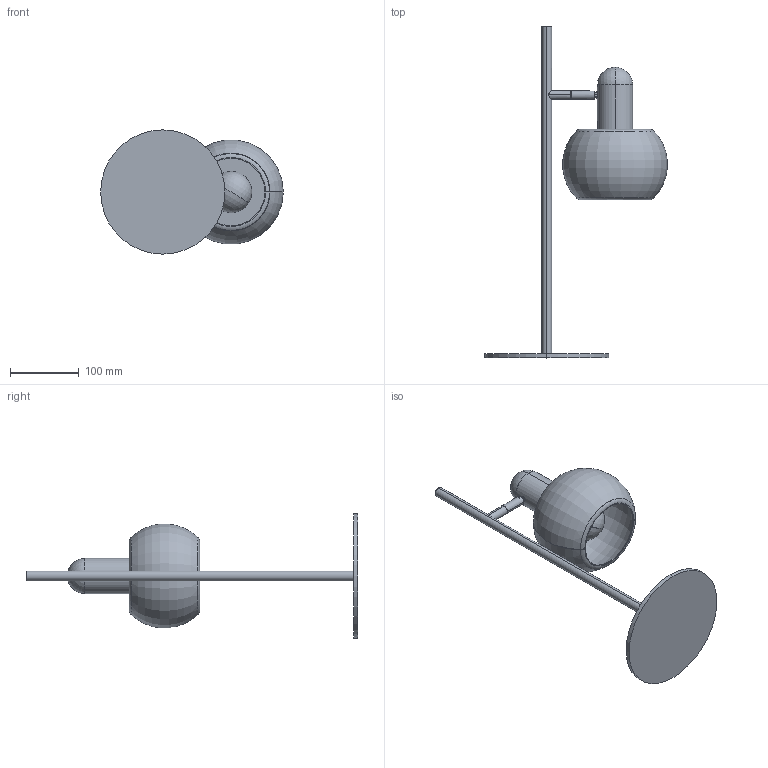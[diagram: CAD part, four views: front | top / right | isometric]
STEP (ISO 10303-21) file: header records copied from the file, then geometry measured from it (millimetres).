
FILE_DESCRIPTION (( 'STEP AP214' ), '1' );
FILE_NAME ('BF 20 table.STEP', '2020-09-03T08:20:20', ( '' ), ( '' ), 'SwSTEP 2.0', 'SolidWorks 2020', '' );
FILE_SCHEMA (( 'AUTOMOTIVE_DESIGN' ));
Length unit declared in the file: millimetre
Products named in the file (15): BF 20 table; 28301 part 2; 70042 E27 Socket outer shell, black; 70106 E27 socket insert, black, EU and AU; E27 Socket, black, plain 70042, 70108, 70106, 38005; 28301 Swivel joint chrome used in Ball table lamp FPL Ø13x44 M10-M8; E27 GLOBE lille Ø60mm; BF 20 table base; 28301 part 1; BF 20 socket cover table; E27 Socket+wire+bulb; 70108 E27 socket bottom, black, EU and AU; BF 20 metal shade floor and table; BF 20 small table shade assembly; 38005 Cable protector E27 kl.2 transparent
Assembly tree (14 placements, depth 5):
  BF 20 table
    BF 20 table base
    BF 20 small table shade assembly
      BF 20 socket cover table
      BF 20 metal shade floor and table
      E27 Socket+wire+bulb
        E27 GLOBE lille Ø60mm
        E27 Socket, black, plain 70042, 70108, 70106, 38005
          70042 E27 Socket outer shell, black
          70108 E27 socket bottom, black, EU and AU
          70106 E27 socket insert, black, EU and AU
          38005 Cable protector E27 kl.2 transparent
    28301 Swivel joint chrome used in Ball table lamp FPL Ø13x44 M10-M8
      28301 part 2
      28301 part 1
Bounding box: 264.75 x 481 x 180 mm (x, y, z)
Volume: 364516 mm3; surface area: 280358.3 mm2
Topology: 14 solids, 14 shells, 218 faces, 481 edges, 299 vertices
Faces by surface type: cylinder 90, plane 57, torus 39, cone 16, sphere 14, bspline 2
Entity records: 9666 total; most frequent: CARTESIAN_POINT 4115, DIRECTION 1206, ORIENTED_EDGE 910, AXIS2_PLACEMENT_3D 532, EDGE_CURVE 455, CIRCLE 295, VERTEX_POINT 285, EDGE_LOOP 256
